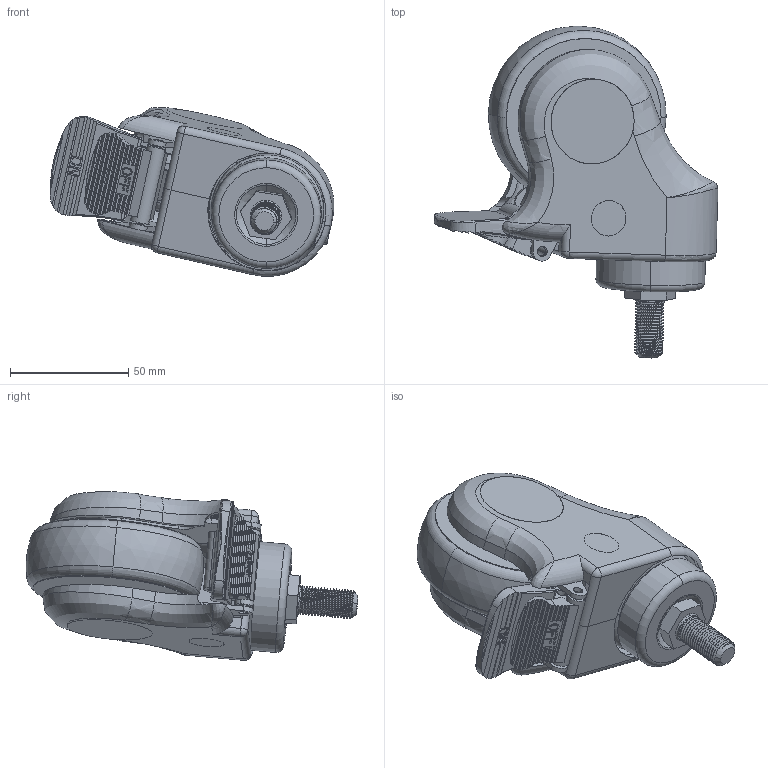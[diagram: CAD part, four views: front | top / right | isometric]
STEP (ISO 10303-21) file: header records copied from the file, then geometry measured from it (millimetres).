
FILE_DESCRIPTION((''),'2;1');
FILE_NAME('E3743-77_ASM_ASM','2022-09-12T',('lenovo'),(''),'PRO/ENGINEER BY PARAMETRIC TECHNOLOGY CORPORATION, 2010280','PRO/ENGINEER BY PARAMETRIC TECHNOLOGY CORPORATION, 2010280','');
FILE_SCHEMA(('CONFIG_CONTROL_DESIGN'));
Products named in the file (18): E373C12A_2; PRT0002; 363-77_ASM_2_ASM_ASM; PRT0003; PRT0004; 371-64AON_1; 370-64OFF_1; PRT0005; PRT0006; E373-63_ASM_1_ASM_ASM; PRT0007; PRT0008; PRT0009; PRT0010; PRT0011; E3743-77_ASM_3_ASM_ASM; E3743-77_ASM_ASM_ASM; E3743-77_ASM_ASM
Assembly tree (19 placements, depth 5):
  E3743-77_ASM_ASM
    E3743-77_ASM_ASM_ASM
      E3743-77_ASM_3_ASM_ASM
        E373C12A_2
        363-77_ASM_2_ASM_ASM
          PRT0002
        PRT0003
        PRT0004
        371-64AON_1
        370-64OFF_1
        E373-63_ASM_1_ASM_ASM
          PRT0005
          PRT0006
        PRT0007
        PRT0008
        PRT0009  x2
        PRT0010  x2
        PRT0011
Bounding box: 119.87 x 140.22 x 71.26 mm (x, y, z)
Volume: 189003.2 mm3; surface area: 93058 mm2
Topology: 15 solids, 15 shells, 926 faces, 2597 edges, 1724 vertices
Faces by surface type: plane 378, cylinder 339, bspline 101, cone 54, torus 49, sphere 5
Entity records: 49890 total; most frequent: CARTESIAN_POINT 26514, ORIENTED_EDGE 5160, DIRECTION 4412, EDGE_CURVE 2580, VERTEX_POINT 1716, AXIS2_PLACEMENT_3D 1609, VECTOR 1194, LINE 1194
